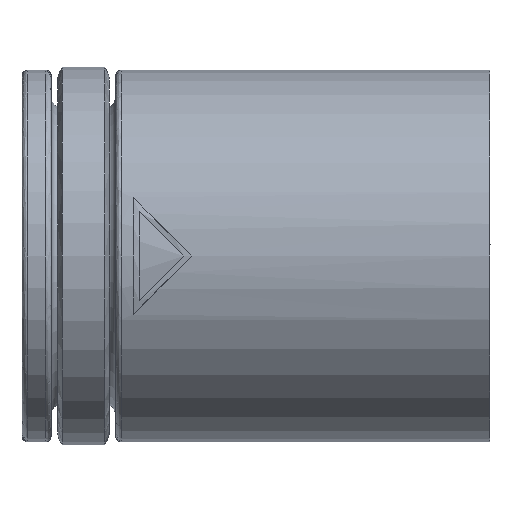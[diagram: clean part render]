
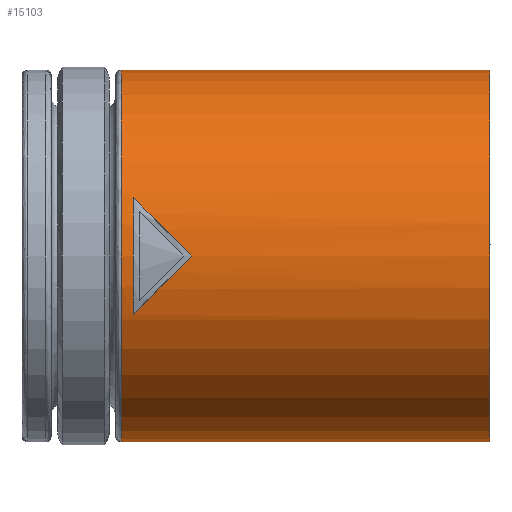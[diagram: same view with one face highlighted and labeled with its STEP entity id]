
A CAD part, front view. The second image highlights one B-rep face of the part: STEP entity #15103.
In plain terms, the highlighted cylindrical face has radius 6.35 mm (diameter 12.7 mm), a partial arc.
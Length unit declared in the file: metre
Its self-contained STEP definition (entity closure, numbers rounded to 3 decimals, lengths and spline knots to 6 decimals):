
#40 = EDGE_CURVE ( 'NONE', #20117, #5747, #4228, .T. ) ;
#79 = AXIS2_PLACEMENT_3D ( 'NONE', #1215, #15256, #3235 ) ;
#352 = CARTESIAN_POINT ( 'NONE',  ( 0.016, 0., 0.00635 ) ) ;
#466 = AXIS2_PLACEMENT_3D ( 'NONE', #13900, #2127, #7819 ) ;
#860 = CARTESIAN_POINT ( 'NONE',  ( 0.016, 0., -0.00635 ) ) ;
#942 = DIRECTION ( 'NONE',  ( -1., 0., 0. ) ) ;
#1141 = ORIENTED_EDGE ( 'NONE', *, *, #40, .F. ) ;
#1215 = CARTESIAN_POINT ( 'NONE',  ( 0.0038, 0., 0. ) ) ;
#1242 = VECTOR ( 'NONE', #10781, 1. ) ;
#1537 = VERTEX_POINT ( 'NONE', #23162 ) ;
#1968 = CYLINDRICAL_SURFACE ( 'NONE', #466, 0.00635 ) ;
#2127 = DIRECTION ( 'NONE',  ( -1., 0., 0. ) ) ;
#2653 = VERTEX_POINT ( 'NONE', #8685 ) ;
#2737 = CARTESIAN_POINT ( 'NONE',  ( 0.0034, 0., 0. ) ) ;
#3057 = CARTESIAN_POINT ( 'NONE',  ( 0.005119, -0.00635, 0.000681 ) ) ;
#3183 = AXIS2_PLACEMENT_3D ( 'NONE', #2737, #4506, #6864 ) ;
#3229 = CARTESIAN_POINT ( 'NONE',  ( 0.004446, -0.006241, 0.001354 ) ) ;
#3235 = DIRECTION ( 'NONE',  ( 0., 0., 1. ) ) ;
#3397 = CARTESIAN_POINT ( 'NONE',  ( 0.0038, -0.006027, 0.002 ) ) ;
#3610 = CARTESIAN_POINT ( 'NONE',  ( 0.0038, -0.006027, -0.002 ) ) ;
#4125 = CIRCLE ( 'NONE', #3183, 0.00635 ) ;
#4228 =( BOUNDED_CURVE ( )  B_SPLINE_CURVE ( 3, ( #9033, #3057, #3229, #3397 ),
 .UNSPECIFIED., .F., .T. ) 
 B_SPLINE_CURVE_WITH_KNOTS ( ( 4, 4 ),
 ( 4.712389, 5.032804 ),
 .UNSPECIFIED. ) 
 CURVE ( )  GEOMETRIC_REPRESENTATION_ITEM ( )  RATIONAL_B_SPLINE_CURVE ( ( 1., 0.991, 0.991, 1. ) ) 
 REPRESENTATION_ITEM ( '' )  );
#4506 = DIRECTION ( 'NONE',  ( -1., 0., 0. ) ) ;
#5130 = CARTESIAN_POINT ( 'NONE',  ( 0.016, 0., 0. ) ) ;
#5410 = FACE_OUTER_BOUND ( 'NONE', #8343, .T. ) ;
#5747 = VERTEX_POINT ( 'NONE', #11317 ) ;
#6464 = ORIENTED_EDGE ( 'NONE', *, *, #18554, .T. ) ;
#6538 = EDGE_CURVE ( 'NONE', #1537, #11788, #16615, .T. ) ;
#6864 = DIRECTION ( 'NONE',  ( 0., -1., 0. ) ) ;
#7819 = DIRECTION ( 'NONE',  ( 0., 0., 1. ) ) ;
#8343 = EDGE_LOOP ( 'NONE', ( #25510, #19802, #6464, #11921 ) ) ;
#8685 = CARTESIAN_POINT ( 'NONE',  ( 0.0034, 0., 0.00635 ) ) ;
#9033 = CARTESIAN_POINT ( 'NONE',  ( 0.0058, -0.00635, 0. ) ) ;
#9213 = CARTESIAN_POINT ( 'NONE',  ( 0.016, 0., 0.00635 ) ) ;
#9389 = CARTESIAN_POINT ( 'NONE',  ( 0.004446, -0.006241, -0.001354 ) ) ;
#9935 = EDGE_LOOP ( 'NONE', ( #24473, #1141, #20068 ) ) ;
#10227 = CIRCLE ( 'NONE', #79, 0.00635 ) ;
#10773 = CIRCLE ( 'NONE', #22145, 0.00635 ) ;
#10781 = DIRECTION ( 'NONE',  ( -1., 0., 0. ) ) ;
#11317 = CARTESIAN_POINT ( 'NONE',  ( 0.0038, -0.006027, 0.002 ) ) ;
#11715 = EDGE_CURVE ( 'NONE', #5747, #22619, #10227, .T. ) ;
#11788 = VERTEX_POINT ( 'NONE', #17108 ) ;
#11921 = ORIENTED_EDGE ( 'NONE', *, *, #17245, .F. ) ;
#12690 = EDGE_CURVE ( 'NONE', #22619, #20117, #18517, .T. ) ;
#13202 = CARTESIAN_POINT ( 'NONE',  ( 0.0058, -0.00635, 0. ) ) ;
#13729 = EDGE_CURVE ( 'NONE', #24809, #1537, #10773, .T. ) ;
#13900 = CARTESIAN_POINT ( 'NONE',  ( 0.016, 0., 0. ) ) ;
#15103 = ADVANCED_FACE ( 'NONE', ( #5410, #19878 ), #1968, .T. ) ;
#15256 = DIRECTION ( 'NONE',  ( 1., 0., 0. ) ) ;
#16615 = LINE ( 'NONE', #860, #21008 ) ;
#17108 = CARTESIAN_POINT ( 'NONE',  ( 0.0034, 0., -0.00635 ) ) ;
#17245 = EDGE_CURVE ( 'NONE', #11788, #2653, #4125, .T. ) ;
#18517 =( BOUNDED_CURVE ( )  B_SPLINE_CURVE ( 3, ( #3610, #9389, #19473, #21504 ),
 .UNSPECIFIED., .F., .F. ) 
 B_SPLINE_CURVE_WITH_KNOTS ( ( 4, 4 ),
 ( 1.250381, 1.570796 ),
 .UNSPECIFIED. ) 
 CURVE ( )  GEOMETRIC_REPRESENTATION_ITEM ( )  RATIONAL_B_SPLINE_CURVE ( ( 1., 0.991, 0.991, 1. ) ) 
 REPRESENTATION_ITEM ( '' )  );
#18554 = EDGE_CURVE ( 'NONE', #24809, #2653, #24479, .T. ) ;
#19473 = CARTESIAN_POINT ( 'NONE',  ( 0.005119, -0.00635, -0.000681 ) ) ;
#19802 = ORIENTED_EDGE ( 'NONE', *, *, #13729, .F. ) ;
#19878 = FACE_BOUND ( 'NONE', #9935, .T. ) ;
#20068 = ORIENTED_EDGE ( 'NONE', *, *, #12690, .F. ) ;
#20117 = VERTEX_POINT ( 'NONE', #13202 ) ;
#20405 = CARTESIAN_POINT ( 'NONE',  ( 0.0038, -0.006027, -0.002 ) ) ;
#21008 = VECTOR ( 'NONE', #942, 1. ) ;
#21504 = CARTESIAN_POINT ( 'NONE',  ( 0.0058, -0.00635, 0. ) ) ;
#22145 = AXIS2_PLACEMENT_3D ( 'NONE', #5130, #23038, #25019 ) ;
#22619 = VERTEX_POINT ( 'NONE', #20405 ) ;
#23038 = DIRECTION ( 'NONE',  ( 1., 0., 0. ) ) ;
#23162 = CARTESIAN_POINT ( 'NONE',  ( 0.016, 0., -0.00635 ) ) ;
#24473 = ORIENTED_EDGE ( 'NONE', *, *, #11715, .F. ) ;
#24479 = LINE ( 'NONE', #352, #1242 ) ;
#24809 = VERTEX_POINT ( 'NONE', #9213 ) ;
#25019 = DIRECTION ( 'NONE',  ( 0., 0., 1. ) ) ;
#25510 = ORIENTED_EDGE ( 'NONE', *, *, #6538, .F. ) ;
